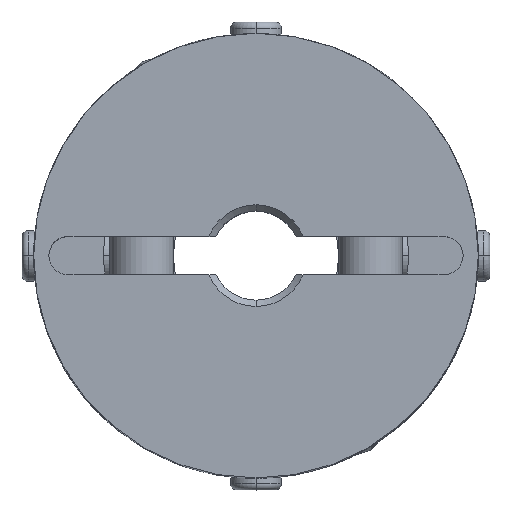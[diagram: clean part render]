
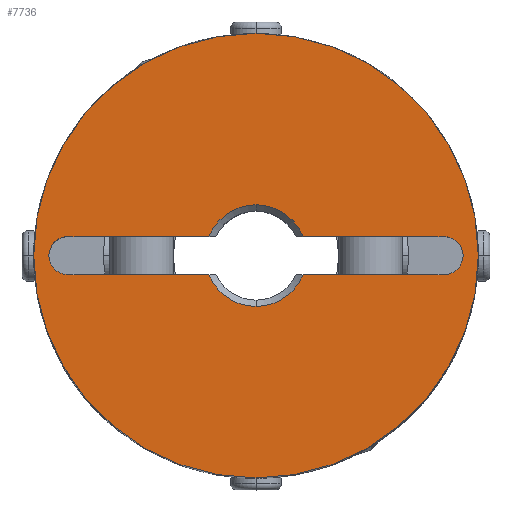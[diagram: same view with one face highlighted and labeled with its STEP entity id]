
A CAD part, top view. The second image highlights one B-rep face of the part: STEP entity #7736.
In plain terms, the highlighted planar face has unit normal (0, 0, 1).
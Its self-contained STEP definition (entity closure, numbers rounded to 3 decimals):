
#785=CARTESIAN_POINT('',(0.,17.5,17.5));
#786=VERTEX_POINT('',#785);
#793=CARTESIAN_POINT('',(0.,-17.5,17.5));
#794=VERTEX_POINT('',#793);
#795=CARTESIAN_POINT('',(0.0,0.0,17.5));
#796=DIRECTION('',(0.0,0.0,-1.0));
#797=DIRECTION('',(0.0,-1.0,0.0));
#798=AXIS2_PLACEMENT_3D('',#795,#796,#797);
#799=CIRCLE('',#798,17.5);
#800=EDGE_CURVE('',#786,#794,#799,.T.);
#1115=CARTESIAN_POINT('',(15.861,1.061,17.5));
#1116=VERTEX_POINT('',#1115);
#1132=CARTESIAN_POINT('',(14.8,-1.5,17.5));
#1133=VERTEX_POINT('',#1132);
#1140=CARTESIAN_POINT('',(14.8,0.,17.5));
#1141=DIRECTION('',(0.0,0.0,1.0));
#1142=DIRECTION('',(0.707,-0.707,0.0));
#1143=AXIS2_PLACEMENT_3D('',#1140,#1141,#1142);
#1144=CIRCLE('',#1143,1.5);
#1145=EDGE_CURVE('',#1133,#1116,#1144,.T.);
#1157=CARTESIAN_POINT('',(-15.861,-1.061,17.5));
#1158=VERTEX_POINT('',#1157);
#1174=CARTESIAN_POINT('',(-14.8,1.5,17.5));
#1175=VERTEX_POINT('',#1174);
#1182=CARTESIAN_POINT('',(-14.8,0.,17.5));
#1183=DIRECTION('',(0.0,0.0,1.0));
#1184=DIRECTION('',(-0.707,0.707,0.0));
#1185=AXIS2_PLACEMENT_3D('',#1182,#1183,#1184);
#1186=CIRCLE('',#1185,1.5);
#1187=EDGE_CURVE('',#1175,#1158,#1186,.T.);
#2307=CARTESIAN_POINT('',(0.,4.,17.5));
#2308=VERTEX_POINT('',#2307);
#2316=CARTESIAN_POINT('',(3.708,1.5,17.5));
#2317=VERTEX_POINT('',#2316);
#2331=CARTESIAN_POINT('',(0.,0.,17.5));
#2332=DIRECTION('',(0.0,0.0,1.0));
#2333=DIRECTION('',(0.0,1.0,0.0));
#2334=AXIS2_PLACEMENT_3D('',#2331,#2332,#2333);
#2335=CIRCLE('',#2334,4.0);
#2336=EDGE_CURVE('',#2317,#2308,#2335,.T.);
#2346=CARTESIAN_POINT('',(0.,-4.,17.5));
#2347=VERTEX_POINT('',#2346);
#2363=CARTESIAN_POINT('',(-3.708,-1.5,17.5));
#2364=VERTEX_POINT('',#2363);
#2378=CARTESIAN_POINT('',(0.,0.,17.5));
#2379=DIRECTION('',(0.0,0.0,1.0));
#2380=DIRECTION('',(0.0,-1.0,0.0));
#2381=AXIS2_PLACEMENT_3D('',#2378,#2379,#2380);
#2382=CIRCLE('',#2381,4.0);
#2383=EDGE_CURVE('',#2364,#2347,#2382,.T.);
#7452=CARTESIAN_POINT('',(14.8,1.5,17.5));
#7453=VERTEX_POINT('',#7452);
#7460=CARTESIAN_POINT('',(3.708,1.5,17.5));
#7461=DIRECTION('',(1.0,0.0,0.0));
#7462=VECTOR('',#7461,11.092);
#7463=LINE('',#7460,#7462);
#7464=EDGE_CURVE('',#2317,#7453,#7463,.T.);
#7621=CARTESIAN_POINT('',(3.708,-1.5,17.5));
#7622=VERTEX_POINT('',#7621);
#7636=CARTESIAN_POINT('',(14.8,-1.5,17.5));
#7637=DIRECTION('',(-1.0,0.0,0.0));
#7638=VECTOR('',#7637,11.092);
#7639=LINE('',#7636,#7638);
#7640=EDGE_CURVE('',#1133,#7622,#7639,.T.);
#7663=CARTESIAN_POINT('',(0.,0.,17.5));
#7664=DIRECTION('',(0.0,0.0,1.0));
#7665=DIRECTION('',(0.0,-1.0,0.0));
#7666=AXIS2_PLACEMENT_3D('',#7663,#7664,#7665);
#7667=CIRCLE('',#7666,4.0);
#7668=EDGE_CURVE('',#2347,#7622,#7667,.T.);
#7675=CARTESIAN_POINT('',(0.,-1.591,17.5));
#7676=DIRECTION('',(0.0,0.0,1.0));
#7677=DIRECTION('',(0.0,-1.0,0.0));
#7678=AXIS2_PLACEMENT_3D('',#7675,#7676,#7677);
#7679=PLANE('',#7678);
#7680=CARTESIAN_POINT('',(0.0,0.0,17.5));
#7681=DIRECTION('',(0.0,0.0,-1.0));
#7682=DIRECTION('',(0.0,-1.0,0.0));
#7683=AXIS2_PLACEMENT_3D('',#7680,#7681,#7682);
#7684=CIRCLE('',#7683,17.5);
#7685=EDGE_CURVE('',#794,#786,#7684,.T.);
#7686=ORIENTED_EDGE('',*,*,#7685,.F.);
#7687=ORIENTED_EDGE('',*,*,#800,.F.);
#7688=EDGE_LOOP('',(#7686,#7687));
#7689=FACE_OUTER_BOUND('',#7688,.T.);
#7690=ORIENTED_EDGE('',*,*,#2383,.F.);
#7691=CARTESIAN_POINT('',(-14.8,-1.5,17.5));
#7692=VERTEX_POINT('',#7691);
#7693=CARTESIAN_POINT('',(-3.708,-1.5,17.5));
#7694=DIRECTION('',(-1.0,0.0,0.0));
#7695=VECTOR('',#7694,11.092);
#7696=LINE('',#7693,#7695);
#7697=EDGE_CURVE('',#2364,#7692,#7696,.T.);
#7698=ORIENTED_EDGE('',*,*,#7697,.T.);
#7699=CARTESIAN_POINT('',(-14.8,0.,17.5));
#7700=DIRECTION('',(0.0,0.0,1.0));
#7701=DIRECTION('',(-0.707,0.707,0.0));
#7702=AXIS2_PLACEMENT_3D('',#7699,#7700,#7701);
#7703=CIRCLE('',#7702,1.5);
#7704=EDGE_CURVE('',#1158,#7692,#7703,.T.);
#7705=ORIENTED_EDGE('',*,*,#7704,.F.);
#7706=ORIENTED_EDGE('',*,*,#1187,.F.);
#7707=CARTESIAN_POINT('',(-3.708,1.5,17.5));
#7708=VERTEX_POINT('',#7707);
#7709=CARTESIAN_POINT('',(-14.8,1.5,17.5));
#7710=DIRECTION('',(1.0,0.0,0.0));
#7711=VECTOR('',#7710,11.092);
#7712=LINE('',#7709,#7711);
#7713=EDGE_CURVE('',#1175,#7708,#7712,.T.);
#7714=ORIENTED_EDGE('',*,*,#7713,.T.);
#7715=CARTESIAN_POINT('',(0.,0.,17.5));
#7716=DIRECTION('',(0.0,0.0,1.0));
#7717=DIRECTION('',(0.0,1.0,0.0));
#7718=AXIS2_PLACEMENT_3D('',#7715,#7716,#7717);
#7719=CIRCLE('',#7718,4.0);
#7720=EDGE_CURVE('',#2308,#7708,#7719,.T.);
#7721=ORIENTED_EDGE('',*,*,#7720,.F.);
#7722=ORIENTED_EDGE('',*,*,#2336,.F.);
#7723=ORIENTED_EDGE('',*,*,#7464,.T.);
#7724=CARTESIAN_POINT('',(14.8,0.,17.5));
#7725=DIRECTION('',(0.0,0.0,1.0));
#7726=DIRECTION('',(0.707,-0.707,0.0));
#7727=AXIS2_PLACEMENT_3D('',#7724,#7725,#7726);
#7728=CIRCLE('',#7727,1.5);
#7729=EDGE_CURVE('',#1116,#7453,#7728,.T.);
#7730=ORIENTED_EDGE('',*,*,#7729,.F.);
#7731=ORIENTED_EDGE('',*,*,#1145,.F.);
#7732=ORIENTED_EDGE('',*,*,#7640,.T.);
#7733=ORIENTED_EDGE('',*,*,#7668,.F.);
#7734=EDGE_LOOP('',(#7690,#7698,#7705,#7706,#7714,#7721,#7722,#7723,#7730,#7731,#7732,#7733));
#7735=FACE_BOUND('',#7734,.T.);
#7736=ADVANCED_FACE('',(#7689,#7735),#7679,.T.);
